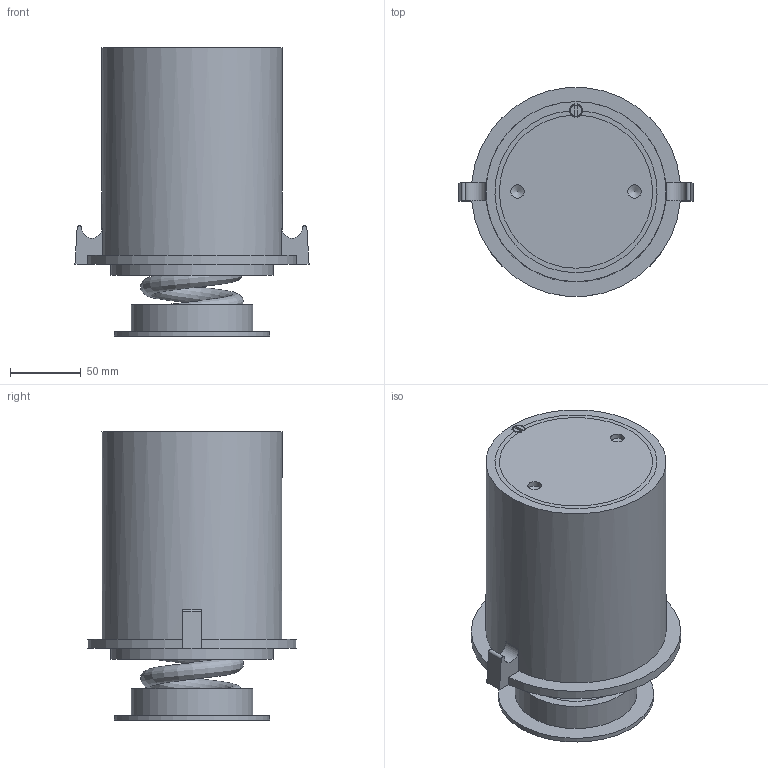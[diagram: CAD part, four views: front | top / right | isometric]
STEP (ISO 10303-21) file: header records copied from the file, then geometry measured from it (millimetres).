
FILE_DESCRIPTION(/* description */ (''),/* implementation_level */ '2;1');
FILE_NAME(/* name */ '\\Mleuckthor2\cad-proe_solids\WEBSITE FILES 05.22.13\STEP\FS\FSC-6 with 2inchAirGap.stp',/* time_stamp */ '2016-03-11T18:39:33-05:00',/* author */ ('rramoutar'),/* organization */ ('Mason Industries Inc.'),/* preprocessor_version */ 'ST-DEVELOPER v15.6',/* originating_system */ 'Autodesk Inventor 2015',/* authorisation */ '');
FILE_SCHEMA (('AUTOMOTIVE_DESIGN { 1 0 10303 214 3 1 1 }'));
Length unit declared in the file: inch
Products named in the file (1): FS-C 6 IN TALL WOS ASSY
Bounding box: 165.1 x 147.07 x 203.2 mm (x, y, z)
Volume: 1164572 mm3; surface area: 305208.9 mm2
Topology: 7 solids, 7 shells, 73 faces, 160 edges, 104 vertices
Faces by surface type: plane 39, cylinder 25, cone 6, sphere 2, bspline 1
Full cylindrical faces by diameter (mm): 9.525 x3, 15.875 x2, 73.025 x1, 76.2 x4, 85.725 x1, 101.6 x1, 107.95 x1, 109.537 x1, 114.3 x1, 127 x1
Entity records: 4097 total; most frequent: CARTESIAN_POINT 2491, DIRECTION 330, ORIENTED_EDGE 264, AXIS2_PLACEMENT_3D 135, EDGE_CURVE 132, EDGE_LOOP 105, VERTEX_POINT 97, FACE_OUTER_BOUND 73
